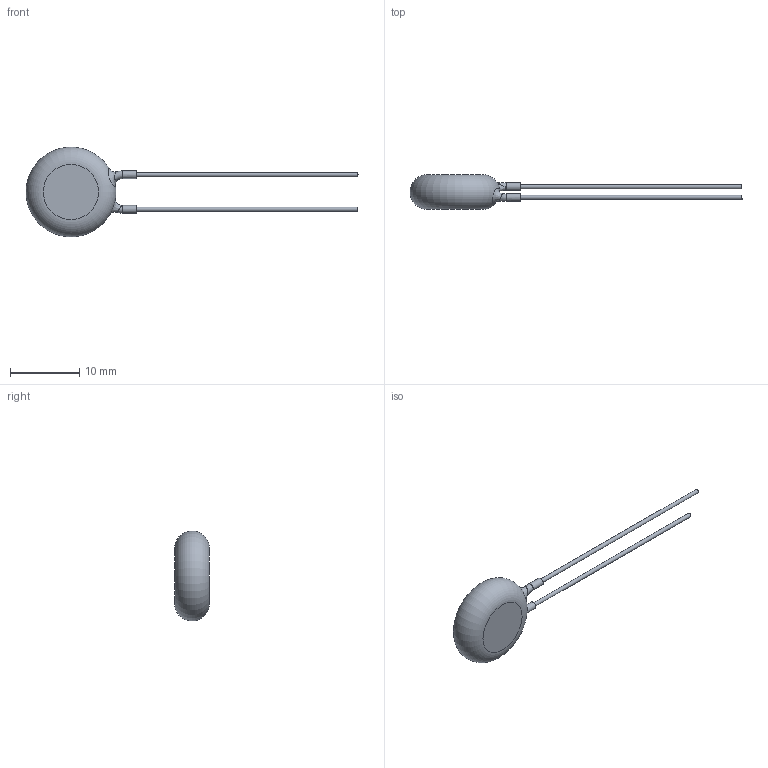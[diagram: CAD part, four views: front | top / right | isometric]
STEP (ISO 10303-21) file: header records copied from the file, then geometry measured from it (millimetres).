
FILE_DESCRIPTION((''),'2;1');
FILE_NAME('I:\Marketing\M6t1\3D-Models\Zchng-Werk-3\Upload for homepage\BCC\AY2\Y5U-5mm\AY2472M49Y5US63L5\AY2472M49Y5US63L5.stp','2015-09-09T08:55:00',(''),(''),'Autodesk Inventor 2013','Autodesk Inventor 2013','');
FILE_SCHEMA(('AUTOMOTIVE_DESIGN { 1 0 10303 214 1 1 1 1 }'));
Length unit declared in the file: centimetre
Products named in the file (1): AY2472M49Y5US63L5
Bounding box: 48 x 5 x 13 mm (x, y, z)
Volume: 589.5 mm3; surface area: 520.8 mm2
Topology: 1 solids, 1 shells, 15 faces, 27 edges, 18 vertices
Faces by surface type: plane 6, cylinder 4, torus 3, bspline 2
Full cylindrical faces by diameter (mm): 0.6 x2, 1.1 x2
Entity records: 641 total; most frequent: CARTESIAN_POINT 344, DIRECTION 52, ORIENTED_EDGE 32, AXIS2_PLACEMENT_3D 26, EDGE_LOOP 26, EDGE_CURVE 16, STYLED_ITEM 16, FACE_OUTER_BOUND 15
